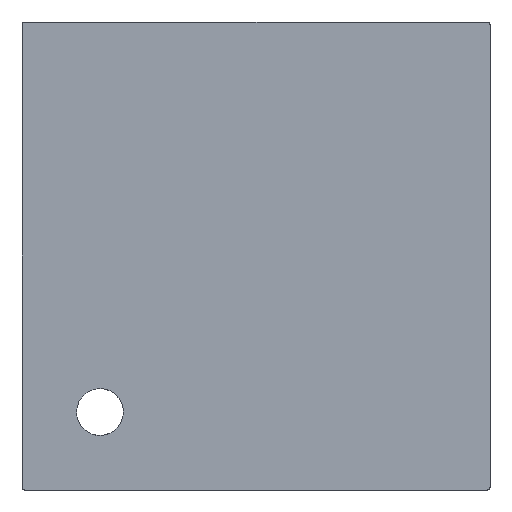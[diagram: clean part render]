
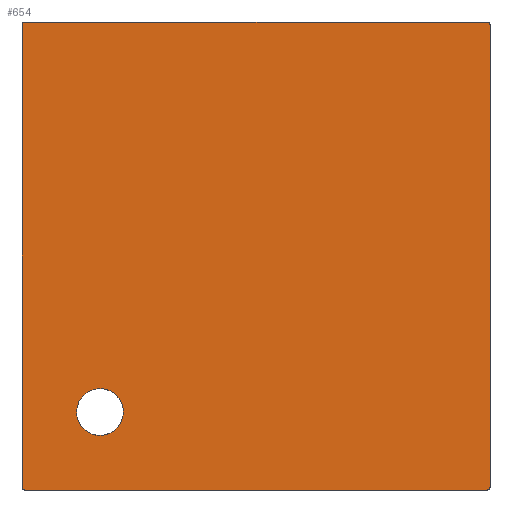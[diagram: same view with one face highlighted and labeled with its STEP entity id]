
A CAD part, front view. The second image highlights one B-rep face of the part: STEP entity #654.
In plain terms, the highlighted planar face has unit normal (0, -1, 0).
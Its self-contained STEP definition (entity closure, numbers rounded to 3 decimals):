
#50=FACE_BOUND('',#159,.T.);
#53=CIRCLE('',#717,5.);
#54=CIRCLE('',#718,5.);
#55=CIRCLE('',#719,5.);
#56=CIRCLE('',#720,5.);
#99=PLANE('',#716);
#111=FACE_OUTER_BOUND('',#158,.T.);
#158=EDGE_LOOP('',(#461,#462,#463,#464,#465,#466,#467,#468));
#159=EDGE_LOOP('',(#469,#470));
#213=LINE('',#1084,#258);
#214=LINE('',#1088,#259);
#215=LINE('',#1092,#260);
#216=LINE('',#1096,#261);
#258=VECTOR('',#814,10.);
#259=VECTOR('',#817,10.);
#260=VECTOR('',#820,10.);
#261=VECTOR('',#823,10.);
#302=ELLIPSE('',#714,45.003,45.);
#303=ELLIPSE('',#715,45.003,45.);
#304=VERTEX_POINT('',#1053);
#305=VERTEX_POINT('',#1054);
#307=VERTEX_POINT('',#1082);
#308=VERTEX_POINT('',#1083);
#309=VERTEX_POINT('',#1085);
#310=VERTEX_POINT('',#1087);
#311=VERTEX_POINT('',#1089);
#312=VERTEX_POINT('',#1091);
#313=VERTEX_POINT('',#1093);
#314=VERTEX_POINT('',#1095);
#358=EDGE_CURVE('',#304,#305,#302,.T.);
#361=EDGE_CURVE('',#305,#304,#303,.T.);
#362=EDGE_CURVE('',#307,#308,#213,.T.);
#363=EDGE_CURVE('',#309,#307,#53,.T.);
#364=EDGE_CURVE('',#310,#309,#214,.T.);
#365=EDGE_CURVE('',#311,#310,#54,.T.);
#366=EDGE_CURVE('',#312,#311,#215,.T.);
#367=EDGE_CURVE('',#313,#312,#55,.T.);
#368=EDGE_CURVE('',#314,#313,#216,.T.);
#369=EDGE_CURVE('',#308,#314,#56,.T.);
#461=ORIENTED_EDGE('',*,*,#362,.F.);
#462=ORIENTED_EDGE('',*,*,#363,.F.);
#463=ORIENTED_EDGE('',*,*,#364,.F.);
#464=ORIENTED_EDGE('',*,*,#365,.F.);
#465=ORIENTED_EDGE('',*,*,#366,.F.);
#466=ORIENTED_EDGE('',*,*,#367,.F.);
#467=ORIENTED_EDGE('',*,*,#368,.F.);
#468=ORIENTED_EDGE('',*,*,#369,.F.);
#469=ORIENTED_EDGE('',*,*,#358,.F.);
#470=ORIENTED_EDGE('',*,*,#361,.F.);
#654=ADVANCED_FACE('',(#111,#50),#99,.F.);
#714=AXIS2_PLACEMENT_3D('',#1055,#807,#808);
#715=AXIS2_PLACEMENT_3D('',#1080,#810,#811);
#716=AXIS2_PLACEMENT_3D('',#1081,#812,#813);
#717=AXIS2_PLACEMENT_3D('',#1086,#815,#816);
#718=AXIS2_PLACEMENT_3D('',#1090,#818,#819);
#719=AXIS2_PLACEMENT_3D('',#1094,#821,#822);
#720=AXIS2_PLACEMENT_3D('',#1097,#824,#825);
#807=DIRECTION('center_axis',(0.,-1.,0.));
#808=DIRECTION('ref_axis',(-0.707,0.,-0.707));
#810=DIRECTION('center_axis',(0.,-1.,0.));
#811=DIRECTION('ref_axis',(-0.707,0.,-0.707));
#812=DIRECTION('center_axis',(0.,1.,0.));
#813=DIRECTION('ref_axis',(1.,0.,0.));
#814=DIRECTION('',(-1.,0.,0.));
#815=DIRECTION('center_axis',(0.,1.,0.));
#816=DIRECTION('ref_axis',(0.707,0.,-0.707));
#817=DIRECTION('',(0.,0.,-1.));
#818=DIRECTION('center_axis',(0.,1.,0.));
#819=DIRECTION('ref_axis',(0.707,0.,0.707));
#820=DIRECTION('',(1.,0.,0.));
#821=DIRECTION('center_axis',(0.,1.,0.));
#822=DIRECTION('ref_axis',(-0.707,0.,0.707));
#823=DIRECTION('',(0.,0.,1.));
#824=DIRECTION('center_axis',(0.,1.,0.));
#825=DIRECTION('ref_axis',(-0.707,0.,-0.707));
#1053=CARTESIAN_POINT('',(-331.602,75.,-267.964));
#1054=CARTESIAN_POINT('',(-268.165,75.,-268.165));
#1055=CARTESIAN_POINT('Origin',(-299.986,75.,-299.986));
#1080=CARTESIAN_POINT('Origin',(-299.986,75.,-299.986));
#1081=CARTESIAN_POINT('Origin',(0.,75.,0.));
#1082=CARTESIAN_POINT('',(445.,75.,-450.));
#1083=CARTESIAN_POINT('',(-445.,75.,-450.));
#1084=CARTESIAN_POINT('',(225.,75.,-450.));
#1085=CARTESIAN_POINT('',(450.,75.,-445.));
#1086=CARTESIAN_POINT('Origin',(445.,75.,-445.));
#1087=CARTESIAN_POINT('',(450.,75.,445.));
#1088=CARTESIAN_POINT('',(450.,75.,225.));
#1089=CARTESIAN_POINT('',(445.,75.,450.));
#1090=CARTESIAN_POINT('Origin',(445.,75.,445.));
#1091=CARTESIAN_POINT('',(-445.,75.,450.));
#1092=CARTESIAN_POINT('',(-225.,75.,450.));
#1093=CARTESIAN_POINT('',(-450.,75.,445.));
#1094=CARTESIAN_POINT('Origin',(-445.,75.,445.));
#1095=CARTESIAN_POINT('',(-450.,75.,-445.));
#1096=CARTESIAN_POINT('',(-450.,75.,-225.));
#1097=CARTESIAN_POINT('Origin',(-445.,75.,-445.));
